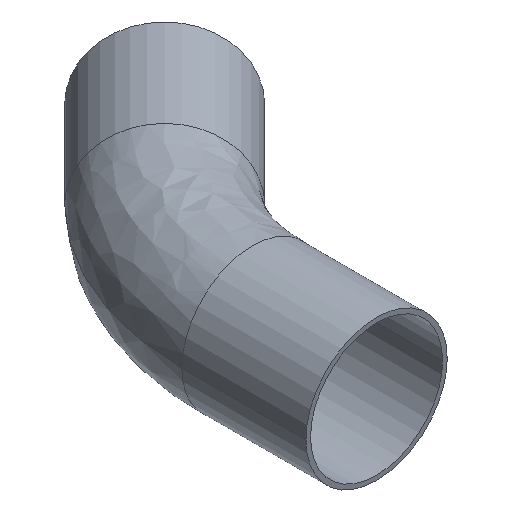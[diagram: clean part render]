
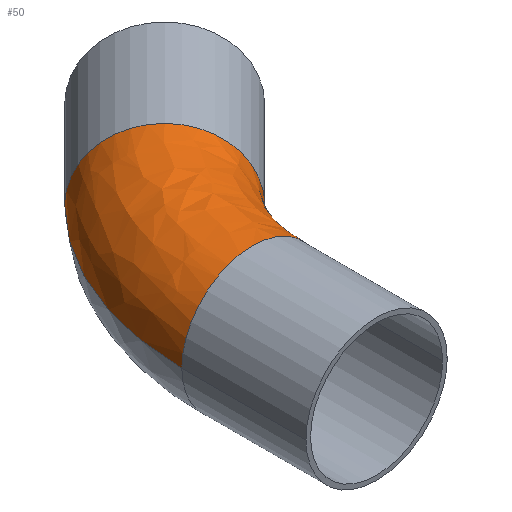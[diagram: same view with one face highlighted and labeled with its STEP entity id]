
A CAD part, isometric view. The second image highlights one B-rep face of the part: STEP entity #50.
In plain terms, the highlighted free-form (B-spline) face has degree [3, 3] with [4, 4] control points.
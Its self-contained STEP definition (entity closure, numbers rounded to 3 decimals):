
#1 = FACE_OUTER_BOUND ( 'NONE', #190, .T. ) ;
#20 = EDGE_CURVE ( 'NONE', #188, #231, #165, .T. ) ;
#28 = CARTESIAN_POINT ( 'NONE',  ( 4.358, 116.479, 0. ) ) ;
#37 = ORIENTED_EDGE ( 'NONE', *, *, #20, .T. ) ;
#50 = ADVANCED_FACE ( 'NONE', ( #1 ), #245, .T. ) ;
#61 = CARTESIAN_POINT ( 'NONE',  ( 25.4, 44.637, 50.8 ) ) ;
#64 = CARTESIAN_POINT ( 'NONE',  ( -25.4, 44.637, 0. ) ) ;
#68 = CARTESIAN_POINT ( 'NONE',  ( -25.4, 44.637, 0. ) ) ;
#73 = CARTESIAN_POINT ( 'NONE',  ( 76.2, 44.637, 0. ) ) ;
#75 = DIRECTION ( 'NONE',  ( 0., 0., -1. ) ) ;
#80 = DIRECTION ( 'NONE',  ( -1., 0., 0. ) ) ;
#133 = CARTESIAN_POINT ( 'NONE',  ( 25.4, 58.29, 50.8 ) ) ;
#146 = DIRECTION ( 'NONE',  ( -0.707, 0.707, 0. ) ) ;
#149 = CARTESIAN_POINT ( 'NONE',  ( 22.318, 98.518, 0. ) ) ;
#150 = CIRCLE ( 'NONE', #240, 50.8 ) ;
#152 = DIRECTION ( 'NONE',  ( -0.707, -0.707, 0. ) ) ;
#158 = VERTEX_POINT ( 'NONE', #64 ) ;
#159 = CIRCLE ( 'NONE', #435, 25.4 ) ;
#165 = CIRCLE ( 'NONE', #210, 25.4 ) ;
#171 = CARTESIAN_POINT ( 'NONE',  ( -25.4, 71.943, 50.8 ) ) ;
#188 = VERTEX_POINT ( 'NONE', #354 ) ;
#190 = EDGE_LOOP ( 'NONE', ( #306, #223, #37, #410 ) ) ;
#210 = AXIS2_PLACEMENT_3D ( 'NONE', #149, #152, #146 ) ;
#222 = CARTESIAN_POINT ( 'NONE',  ( 25.4, 44.637, 0. ) ) ;
#223 = ORIENTED_EDGE ( 'NONE', *, *, #331, .T. ) ;
#231 = VERTEX_POINT ( 'NONE', #28 ) ;
#240 = AXIS2_PLACEMENT_3D ( 'NONE', #259, #263, #267 ) ;
#243 = EDGE_CURVE ( 'NONE', #158, #231, #275, .T. ) ;
#245 =( BOUNDED_SURFACE ( )  B_SPLINE_SURFACE ( 3, 3, ( 
 ( #68, #318, #311, #309 ),
 ( #272, #171, #303, #293 ),
 ( #61, #133, #369, #247 ),
 ( #222, #258, #269, #261 ) ),
 .UNSPECIFIED., .F., .F., .F. ) 
 B_SPLINE_SURFACE_WITH_KNOTS ( ( 4, 4 ),
 ( 4, 4 ),
 ( 0., 1. ),
 ( 0., 1. ),
 .UNSPECIFIED. ) 
 GEOMETRIC_REPRESENTATION_ITEM ( )  RATIONAL_B_SPLINE_SURFACE ( (
 ( 1., 0.949, 0.949, 1.),
 ( 0.333, 0.316, 0.316, 0.333),
 ( 0.333, 0.316, 0.316, 0.333),
 ( 1., 0.949, 0.949, 1.) ) ) 
 REPRESENTATION_ITEM ( '' )  SURFACE ( )  );
#247 = CARTESIAN_POINT ( 'NONE',  ( 40.279, 80.558, 50.8 ) ) ;
#258 = CARTESIAN_POINT ( 'NONE',  ( 25.4, 58.29, 0. ) ) ;
#259 = CARTESIAN_POINT ( 'NONE',  ( 76.2, 44.637, 0. ) ) ;
#261 = CARTESIAN_POINT ( 'NONE',  ( 40.279, 80.558, 0. ) ) ;
#263 = DIRECTION ( 'NONE',  ( 0., 0., -1. ) ) ;
#267 = DIRECTION ( 'NONE',  ( -1., 0., 0. ) ) ;
#269 = CARTESIAN_POINT ( 'NONE',  ( 30.625, 70.904, 0. ) ) ;
#272 = CARTESIAN_POINT ( 'NONE',  ( -25.4, 44.637, 50.8 ) ) ;
#275 = CIRCLE ( 'NONE', #363, 101.6 ) ;
#293 = CARTESIAN_POINT ( 'NONE',  ( 4.358, 116.479, 50.8 ) ) ;
#303 = CARTESIAN_POINT ( 'NONE',  ( -14.95, 97.171, 50.8 ) ) ;
#306 = ORIENTED_EDGE ( 'NONE', *, *, #415, .T. ) ;
#309 = CARTESIAN_POINT ( 'NONE',  ( 4.358, 116.479, 0. ) ) ;
#311 = CARTESIAN_POINT ( 'NONE',  ( -14.95, 97.171, 0. ) ) ;
#318 = CARTESIAN_POINT ( 'NONE',  ( -25.4, 71.943, 0. ) ) ;
#328 = CARTESIAN_POINT ( 'NONE',  ( 25.4, 44.637, 0. ) ) ;
#331 = EDGE_CURVE ( 'NONE', #444, #188, #150, .T. ) ;
#354 = CARTESIAN_POINT ( 'NONE',  ( 40.279, 80.558, 0. ) ) ;
#363 = AXIS2_PLACEMENT_3D ( 'NONE', #73, #75, #80 ) ;
#369 = CARTESIAN_POINT ( 'NONE',  ( 30.625, 70.904, 50.8 ) ) ;
#410 = ORIENTED_EDGE ( 'NONE', *, *, #243, .F. ) ;
#415 = EDGE_CURVE ( 'NONE', #158, #444, #159, .T. ) ;
#429 = CARTESIAN_POINT ( 'NONE',  ( 0., 44.637, 0. ) ) ;
#430 = DIRECTION ( 'NONE',  ( 0., 1., 0. ) ) ;
#431 = DIRECTION ( 'NONE',  ( -1., 0., 0. ) ) ;
#435 = AXIS2_PLACEMENT_3D ( 'NONE', #429, #430, #431 ) ;
#444 = VERTEX_POINT ( 'NONE', #328 ) ;
